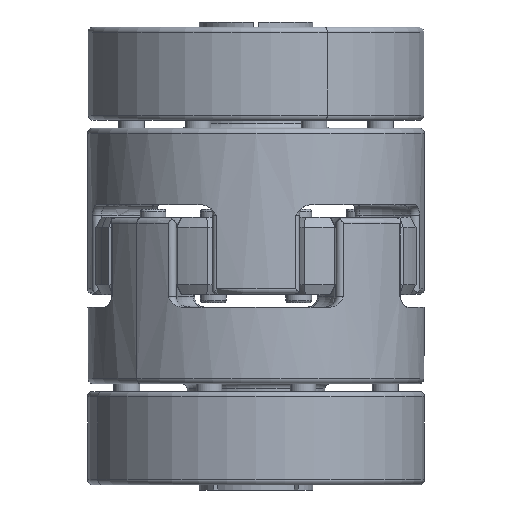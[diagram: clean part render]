
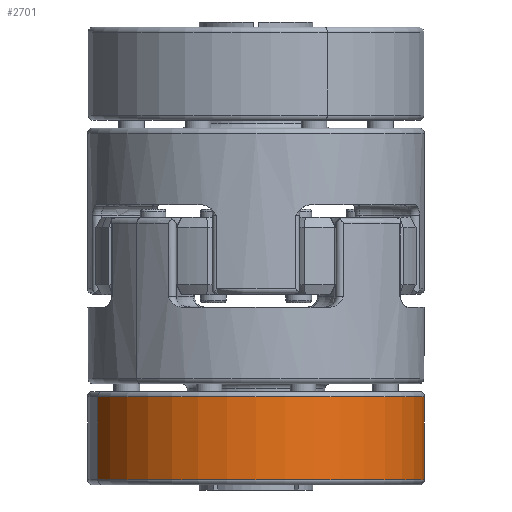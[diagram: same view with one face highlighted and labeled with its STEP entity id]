
A CAD part, front view. The second image highlights one B-rep face of the part: STEP entity #2701.
In plain terms, the highlighted cylindrical face has radius 32.5 mm (diameter 65 mm), a partial arc.
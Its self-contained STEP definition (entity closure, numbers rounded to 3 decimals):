
#1848 = DIRECTION ( 'NONE',  ( -0.94, -0.342, 0. ) ) ;
#2316 = CARTESIAN_POINT ( 'NONE',  ( 30.54, 11.116, -44.15 ) ) ;
#2701 = ADVANCED_FACE ( 'NONE', ( #13769 ), #33527, .T. ) ;
#3205 = VERTEX_POINT ( 'NONE', #20398 ) ;
#3213 = ORIENTED_EDGE ( 'NONE', *, *, #3771, .T. ) ;
#3771 = EDGE_CURVE ( 'NONE', #17110, #3205, #8230, .T. ) ;
#6299 = AXIS2_PLACEMENT_3D ( 'NONE', #29432, #13982, #31995 ) ;
#6970 = EDGE_LOOP ( 'NONE', ( #3213, #30750, #16959, #31192 ) ) ;
#7828 = AXIS2_PLACEMENT_3D ( 'NONE', #32841, #17392, #1848 ) ;
#7967 = EDGE_CURVE ( 'NONE', #17110, #16359, #30459, .T. ) ;
#8230 = CIRCLE ( 'NONE', #6299, 32.5 ) ;
#10208 = DIRECTION ( 'NONE',  ( 0., 0., -1. ) ) ;
#11274 = AXIS2_PLACEMENT_3D ( 'NONE', #26892, #26755, #16566 ) ;
#13769 = FACE_OUTER_BOUND ( 'NONE', #6970, .T. ) ;
#13918 = VERTEX_POINT ( 'NONE', #19766 ) ;
#13982 = DIRECTION ( 'NONE',  ( 0., 0., -1. ) ) ;
#14621 = CARTESIAN_POINT ( 'NONE',  ( -30.54, -11.116, -44.15 ) ) ;
#15656 = LINE ( 'NONE', #14621, #28600 ) ;
#16026 = CARTESIAN_POINT ( 'NONE',  ( 30.54, 11.116, -27.15 ) ) ;
#16359 = VERTEX_POINT ( 'NONE', #18118 ) ;
#16566 = DIRECTION ( 'NONE',  ( 0.94, 0.342, 0. ) ) ;
#16959 = ORIENTED_EDGE ( 'NONE', *, *, #31013, .T. ) ;
#17110 = VERTEX_POINT ( 'NONE', #16026 ) ;
#17392 = DIRECTION ( 'NONE',  ( 0., 0., 1. ) ) ;
#18118 = CARTESIAN_POINT ( 'NONE',  ( 30.54, 11.116, -43.15 ) ) ;
#19766 = CARTESIAN_POINT ( 'NONE',  ( -30.54, -11.116, -43.15 ) ) ;
#20398 = CARTESIAN_POINT ( 'NONE',  ( -30.54, -11.116, -27.15 ) ) ;
#23619 = VECTOR ( 'NONE', #10208, 1000. ) ;
#26755 = DIRECTION ( 'NONE',  ( 0., 0., -1. ) ) ;
#26892 = CARTESIAN_POINT ( 'NONE',  ( 0., 0., -44.15 ) ) ;
#28600 = VECTOR ( 'NONE', #32646, 1000. ) ;
#29432 = CARTESIAN_POINT ( 'NONE',  ( 0., 0., -27.15 ) ) ;
#30455 = EDGE_CURVE ( 'NONE', #3205, #13918, #15656, .T. ) ;
#30459 = LINE ( 'NONE', #2316, #23619 ) ;
#30750 = ORIENTED_EDGE ( 'NONE', *, *, #30455, .T. ) ;
#31013 = EDGE_CURVE ( 'NONE', #13918, #16359, #32950, .T. ) ;
#31192 = ORIENTED_EDGE ( 'NONE', *, *, #7967, .F. ) ;
#31995 = DIRECTION ( 'NONE',  ( 0.94, 0.342, 0. ) ) ;
#32646 = DIRECTION ( 'NONE',  ( 0., 0., -1. ) ) ;
#32841 = CARTESIAN_POINT ( 'NONE',  ( 0., 0., -43.15 ) ) ;
#32950 = CIRCLE ( 'NONE', #7828, 32.5 ) ;
#33527 = CYLINDRICAL_SURFACE ( 'NONE', #11274, 32.5 ) ;
